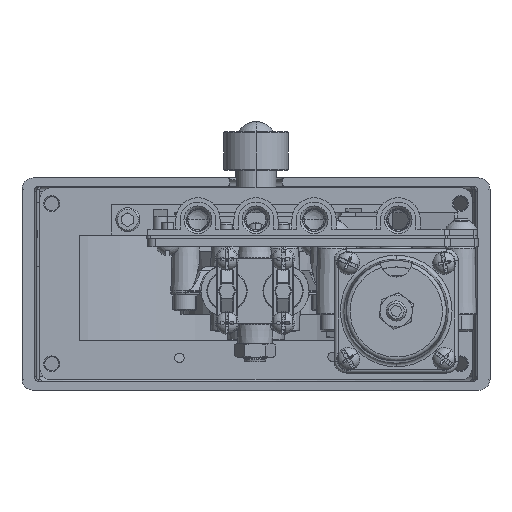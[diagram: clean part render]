
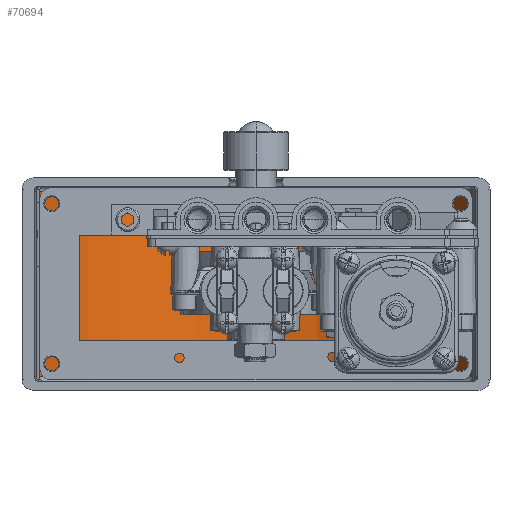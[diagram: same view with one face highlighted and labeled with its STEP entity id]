
A CAD part, front view. The second image highlights one B-rep face of the part: STEP entity #70694.
In plain terms, the highlighted cylindrical face has radius 95.872 mm (diameter 191.743 mm), a partial arc.
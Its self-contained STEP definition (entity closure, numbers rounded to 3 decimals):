
#4644 = EDGE_CURVE ( 'NONE', #30268, #79565, #59525, .T. ) ;
#8568 = VECTOR ( 'NONE', #61011, 1000. ) ;
#14637 = CIRCLE ( 'NONE', #48511, 95.872 ) ;
#14924 = DIRECTION ( 'NONE',  ( 0., 0., 1. ) ) ;
#21539 = DIRECTION ( 'NONE',  ( 0., 0., -1. ) ) ;
#22864 = CARTESIAN_POINT ( 'NONE',  ( 0., -29.895, -36.77 ) ) ;
#24526 = EDGE_CURVE ( 'NONE', #75035, #30268, #14637, .T. ) ;
#25044 = DIRECTION ( 'NONE',  ( 0., 0., 1. ) ) ;
#28167 = FACE_OUTER_BOUND ( 'NONE', #35126, .T. ) ;
#28427 = CARTESIAN_POINT ( 'NONE',  ( -85.803, 12.875, 36.77 ) ) ;
#30268 = VERTEX_POINT ( 'NONE', #112213 ) ;
#31829 = DIRECTION ( 'NONE',  ( -1., 0., 0. ) ) ;
#35126 = EDGE_LOOP ( 'NONE', ( #46364, #102686, #76243, #41325 ) ) ;
#37043 = CARTESIAN_POINT ( 'NONE',  ( -85.803, 12.875, -36.77 ) ) ;
#41325 = ORIENTED_EDGE ( 'NONE', *, *, #24526, .T. ) ;
#46364 = ORIENTED_EDGE ( 'NONE', *, *, #4644, .T. ) ;
#48511 = AXIS2_PLACEMENT_3D ( 'NONE', #22864, #85330, #31829 ) ;
#57476 = CARTESIAN_POINT ( 'NONE',  ( 85.803, 12.875, 41.929 ) ) ;
#59525 = LINE ( 'NONE', #57476, #106991 ) ;
#61011 = DIRECTION ( 'NONE',  ( 0., 0., -1. ) ) ;
#64467 = EDGE_CURVE ( 'NONE', #68681, #75035, #77003, .T. ) ;
#64666 = CIRCLE ( 'NONE', #98911, 95.872 ) ;
#66399 = DIRECTION ( 'NONE',  ( -1., 0., 0. ) ) ;
#68336 = CARTESIAN_POINT ( 'NONE',  ( 0., -29.895, 36.77 ) ) ;
#68681 = VERTEX_POINT ( 'NONE', #28427 ) ;
#70464 = CARTESIAN_POINT ( 'NONE',  ( 85.803, 12.875, 36.77 ) ) ;
#70694 = ADVANCED_FACE ( 'NONE', ( #28167 ), #88248, .F. ) ;
#75035 = VERTEX_POINT ( 'NONE', #37043 ) ;
#75048 = CARTESIAN_POINT ( 'NONE',  ( 0., -29.895, 41.929 ) ) ;
#76243 = ORIENTED_EDGE ( 'NONE', *, *, #64467, .T. ) ;
#77003 = LINE ( 'NONE', #114551, #8568 ) ;
#77320 = DIRECTION ( 'NONE',  ( -1., 0., 0. ) ) ;
#79565 = VERTEX_POINT ( 'NONE', #70464 ) ;
#85330 = DIRECTION ( 'NONE',  ( 0., 0., -1. ) ) ;
#88248 = CYLINDRICAL_SURFACE ( 'NONE', #92945, 95.872 ) ;
#92945 = AXIS2_PLACEMENT_3D ( 'NONE', #75048, #21539, #66399 ) ;
#94385 = EDGE_CURVE ( 'NONE', #79565, #68681, #64666, .T. ) ;
#98911 = AXIS2_PLACEMENT_3D ( 'NONE', #68336, #14924, #77320 ) ;
#102686 = ORIENTED_EDGE ( 'NONE', *, *, #94385, .T. ) ;
#106991 = VECTOR ( 'NONE', #25044, 1000. ) ;
#112213 = CARTESIAN_POINT ( 'NONE',  ( 85.803, 12.875, -36.77 ) ) ;
#114551 = CARTESIAN_POINT ( 'NONE',  ( -85.803, 12.875, 41.929 ) ) ;
